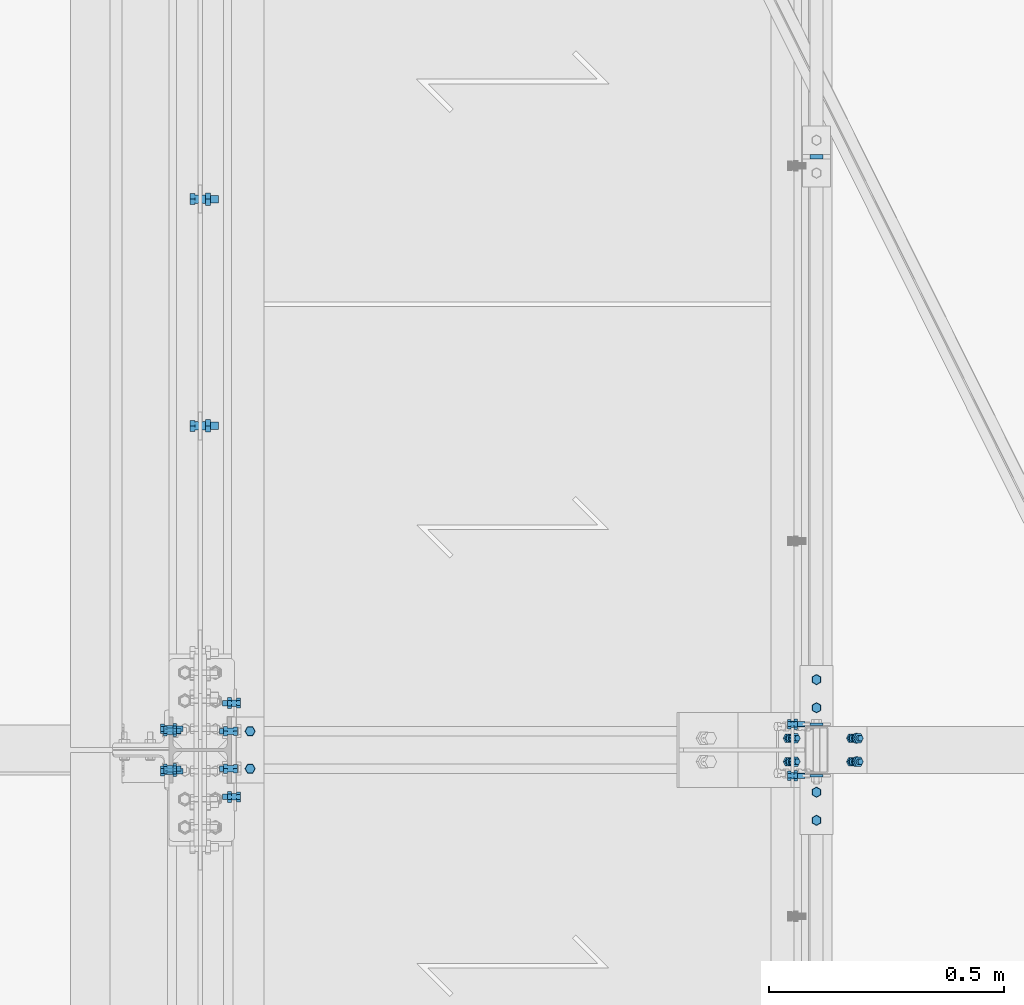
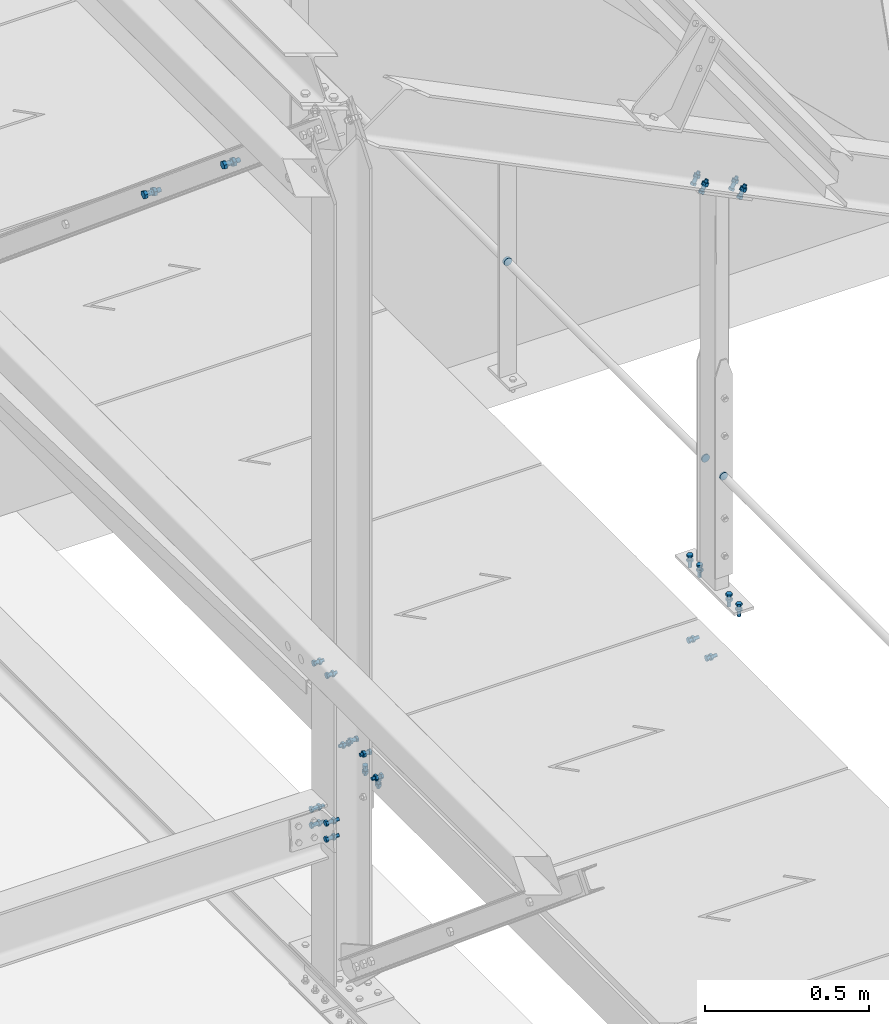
# One storey, part 319 of 362: 23 mechanical fasteners.
"""IFC2X3 building model written with IfcOpenShell, lengths in millimetres."""

from ifc_helpers import new_model, si_unit, frame, origin_with_axes, origin_2d_with_axis, place, context, subcontext, project, spatial, polyline, circle, outline, extrude, source, transform, mapped, material, type_object, element, save


model = new_model("IFC2X3")

# Units and contexts
model_context = context("Model", 3, precision=1e-05, world=origin_with_axes())
body_context = subcontext(model_context, "Body", "Model", "MODEL_VIEW")
ifc_project = project(units=[si_unit("LENGTHUNIT", "METRE", prefix="MILLI"), si_unit("AREAUNIT", "SQUARE_METRE"), si_unit("VOLUMEUNIT", "CUBIC_METRE"), si_unit("MASSUNIT", "GRAM", prefix="KILO"), si_unit("TIMEUNIT", "SECOND"), si_unit("PLANEANGLEUNIT", "RADIAN"), si_unit("SOLIDANGLEUNIT", "STERADIAN"), si_unit("THERMODYNAMICTEMPERATUREUNIT", "DEGREE_CELSIUS"), si_unit("LUMINOUSINTENSITYUNIT", "LUMEN")], contexts=[model_context])

# Site, building, storey
site_placement = place(None, origin_with_axes())
site = spatial("IfcSite", under=ifc_project, at=site_placement, Name="Undefined", CompositionType="ELEMENT")
building_placement = place(site_placement, origin_with_axes())
building = spatial("IfcBuilding", under=site, at=building_placement, Name="Undefined", CompositionType="ELEMENT")
storey_placement = place(building_placement, origin_with_axes())
storey = spatial("IfcBuildingStorey", under=building, at=storey_placement, Name="Undefined", CompositionType="ELEMENT", Elevation=0.0)

# Mechanical fasteners
ifc_material_1 = material(Name="8.8-SB-ZINGUE")
mechanical_fastener_type = type_object("IfcMechanicalFastenerType", Name="Bolt assembly")
shared_shape_1 = source(origin_with_axes(), body_context, "Body", "SweptSolid", [
    extrude(circle(Radius=9.0, at=origin_2d_with_axis()), frame((0.0, -10.9000000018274, 0.0), z_axis=(0.0, 1.0, 0.0), x_axis=(1.0, 0.0, 0.0)), (0.0, 0.0, 1.0), 6.0),
    extrude(circle(Radius=9.0, at=origin_2d_with_axis()), frame((0.0, 4.9000000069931, 0.0), z_axis=(0.0, 1.0, 0.0), x_axis=(1.0, 0.0, 0.0)), (0.0, 0.0, 1.0), 6.1),
    extrude(circle(Radius=9.0, at=origin_2d_with_axis()), frame((0.0, -3.99999923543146, 0.0), z_axis=(0.0, 1.0, 0.0), x_axis=(1.0, 0.0, 0.0)), (0.0, 0.0, 1.0), 8.0),
    extrude(outline(polyline([(13.85640646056, 0.0), (6.92820323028, 12.0000000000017), (-6.92820323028, 12.0000000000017), (-13.85640646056, 0.0), (-6.92820323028, -12.0000000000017), (6.92820323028, -12.0000000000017), (13.85640646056, 0.0)])), frame((0.0, -21.5600000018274, 0.0), z_axis=(0.0, 1.0, 0.0), x_axis=(1.0, 0.0, 0.0)), (0.0, 0.0, 1.0), 10.56),
    extrude(circle(Radius=8.0, at=origin_2d_with_axis()), frame((0.0, -11.0000000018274, 0.0), z_axis=(0.0, 1.0, 0.0), x_axis=(1.0, 0.0, 0.0)), (0.0, 0.0, 1.0), 50.0),
    extrude(outline(polyline([(15.3344231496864, 0.0), (7.6672115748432, 13.2800000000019), (-7.6672115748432, 13.2800000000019), (-15.3344231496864, 0.0), (-7.6672115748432, -13.2800000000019), (7.6672115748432, -13.2800000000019), (15.3344231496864, 0.0)])), frame((0.0, 11.0000000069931, 0.0), z_axis=(0.0, 1.0, 0.0), x_axis=(1.0, 0.0, 0.0)), (0.0, 0.0, 1.0), 10.56),
])
for number, where, z_axis, x_axis, name in (
    (1, (34280.0, 4490.89269244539, 9846.10460257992), (0.0, 1.0, 0.0), (0.0, 0.0, 1.0), "Bolt assembly"),
    (2, (34280.0, 4974.53561570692, 9442.26276165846), (0.0, 1.0, 0.0), (0.0, 0.0, 1.0), "Bolt assembly"),
):
    element("IfcMechanicalFastener", number, at=place(storey_placement, frame(where, z_axis=z_axis, x_axis=x_axis)), inside=storey, type_object=mechanical_fastener_type, material=ifc_material_1, Name=name, NominalDiameter=16.0, NominalLength=50.0, context=body_context, shape_type="MappedRepresentation", body=[
        mapped(shared_shape_1, transform((0.0, 0.0, 0.0))),
    ])
shared_shape_2 = source(origin_with_axes(), body_context, "Body", "SweptSolid", [
    extrude(circle(Radius=7.0, at=origin_2d_with_axis()), frame((0.0, -10.0000010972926, 0.0), z_axis=(0.0, 1.0, 0.0), x_axis=(1.0, 0.0, 0.0)), (0.0, 0.0, 1.0), 10.1),
    extrude(outline(polyline([(10.39230484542, 0.0), (5.19615242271, 9.00000000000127), (-5.19615242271, 9.00000000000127), (-10.39230484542, 0.0), (-5.19615242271, -9.00000000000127), (5.19615242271, -9.00000000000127), (10.39230484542, 0.0)])), frame((0.0, -17.92, 0.0), z_axis=(0.0, 1.0, 0.0), x_axis=(1.0, 0.0, 0.0)), (0.0, 0.0, 1.0), 7.92),
    extrude(circle(Radius=6.0, at=origin_2d_with_axis()), frame((0.0, -10.0000010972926, 0.0), z_axis=(0.0, 1.0, 0.0), x_axis=(1.0, 0.0, 0.0)), (0.0, 0.0, 1.0), 40.0),
    extrude(outline(polyline([(11.5008173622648, 0.0), (5.7504086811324, 9.96000000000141), (-5.7504086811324, 9.96000000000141), (-11.5008173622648, 0.0), (-5.7504086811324, -9.96000000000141), (5.7504086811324, -9.96000000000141), (11.5008173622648, 0.0)])), frame((0.0, 0.0, 0.0), z_axis=(0.0, 1.0, 0.0), x_axis=(1.0, 0.0, 0.0)), (0.0, 0.0, 1.0), 7.92),
])
for number, where, z_axis, x_axis, name in (
    (3, (35593.9917140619, 3950.00010619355, 8239.99999240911), (1.0, 0.0, 0.0), (0.0, -1.0, 0.0), "Bolt assembly"),
    (4, (35593.9917140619, 3650.00010619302, 8240.00002612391), (-1.0, 0.0, 0.0), (0.0, 1.0, 0.0), "Bolt assembly"),
):
    element("IfcMechanicalFastener", number, at=place(storey_placement, frame(where, z_axis=z_axis, x_axis=x_axis)), inside=storey, type_object=mechanical_fastener_type, material=ifc_material_1, Name=name, NominalDiameter=12.0, NominalLength=40.0, context=body_context, shape_type="MappedRepresentation", body=[
        mapped(shared_shape_2, transform((0.0, 0.0, 0.0))),
        mapped(shared_shape_2, transform((60.0, 0.0, 0.0))),
    ])
ifc_material_2 = material(Name="6.8")
shared_shape_3 = source(origin_with_axes(), body_context, "Body", "SweptSolid", [
    extrude(circle(Radius=14.0, at=origin_2d_with_axis()), frame((0.0, -5.00000000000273, 0.0), z_axis=(0.0, 1.0, 0.0), x_axis=(1.0, 0.0, 0.0)), (0.0, 0.0, 1.0), 10.1),
])
mechanical_fastener_placement = place(storey_placement, frame((35593.9917152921, 5065.0034325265, 8673.8000038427), z_axis=(0.0, 0.0, 1.0), x_axis=(-1.0, 0.0, 0.0)))
element("IfcMechanicalFastener", 5, at=mechanical_fastener_placement, inside=storey, type_object=mechanical_fastener_type, material=ifc_material_2, Name="Bolt assembly", NominalDiameter=27.0, NominalLength=10.0, context=body_context, shape_type="MappedRepresentation", body=[
    mapped(shared_shape_3, transform((0.0, 0.0, 0.0))),
])
shared_shape_4 = source(origin_with_axes(), body_context, "Body", "SweptSolid", [
    extrude(circle(Radius=7.0, at=origin_2d_with_axis()), frame((0.0, -4.90000000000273, 0.0), z_axis=(0.0, 1.0, 0.0), x_axis=(1.0, 0.0, 0.0)), (0.0, 0.0, 1.0), 5.0),
    extrude(circle(Radius=7.0, at=origin_2d_with_axis()), frame((0.0, -0.100011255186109, 0.0), z_axis=(0.0, 1.0, 0.0), x_axis=(1.0, 0.0, 0.0)), (0.0, 0.0, 1.0), 7.1),
    extrude(outline(polyline([(10.39230484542, 0.0), (5.19615242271, 9.00000000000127), (-5.19615242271, 9.00000000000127), (-10.39230484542, 0.0), (-5.19615242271, -9.00000000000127), (5.19615242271, -9.00000000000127), (10.39230484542, 0.0)])), frame((0.0, -12.9200004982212, 0.0), z_axis=(0.0, 1.0, 0.0), x_axis=(1.0, 0.0, 0.0)), (0.0, 0.0, 1.0), 7.92),
    extrude(circle(Radius=6.0, at=origin_2d_with_axis()), frame((0.0, -5.00000000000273, 0.0), z_axis=(0.0, 1.0, 0.0), x_axis=(1.0, 0.0, 0.0)), (0.0, 0.0, 1.0), 30.0),
    extrude(outline(polyline([(11.5008173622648, 0.0), (5.7504086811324, 9.96000000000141), (-5.7504086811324, 9.96000000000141), (-11.5008173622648, 0.0), (-5.7504086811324, -9.96000000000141), (5.7504086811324, -9.96000000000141), (11.5008173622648, 0.0)])), frame((0.0, 7.0, 0.0), z_axis=(0.0, 1.0, 0.0), x_axis=(1.0, 0.0, 0.0)), (0.0, 0.0, 1.0), 7.92),
])
for number, where, z_axis, x_axis, name in (
    (6, (34386.5001146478, 3839.99999998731, 7950.00000000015), (0.0, -1.0, 0.0), (-1.0, 0.0, 0.0), "Bolt assembly"),
    (7, (34386.5001146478, 3759.99999998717, 7950.00000000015), (0.0, -1.0, 0.0), (-1.0, 0.0, 0.0), "Bolt assembly"),
):
    element("IfcMechanicalFastener", number, at=place(storey_placement, frame(where, z_axis=z_axis, x_axis=x_axis)), inside=storey, type_object=mechanical_fastener_type, material=ifc_material_1, Name=name, NominalDiameter=12.0, NominalLength=30.0, context=body_context, shape_type="MappedRepresentation", body=[
        mapped(shared_shape_4, transform((0.0, 0.0, 0.0))),
    ])
shared_shape_5 = source(origin_with_axes(), body_context, "Body", "SweptSolid", [
    extrude(circle(Radius=7.0, at=origin_2d_with_axis()), frame((0.0, -0.0998569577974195, 0.0), z_axis=(0.0, 1.0, 0.0), x_axis=(1.0, 0.0, 0.0)), (0.0, 0.0, 1.0), 8.6),
    extrude(circle(Radius=7.0, at=origin_2d_with_axis()), frame((0.0, -4.89988938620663, 0.0), z_axis=(0.0, 1.0, 0.0), x_axis=(1.0, 0.0, 0.0)), (0.0, 0.0, 1.0), 5.0),
    extrude(outline(polyline([(10.39230484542, 0.0), (5.19615242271, 9.00000000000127), (-5.19615242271, 9.00000000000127), (-10.39230484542, 0.0), (-5.19615242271, -9.00000000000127), (5.19615242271, -9.00000000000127), (10.39230484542, 0.0)])), frame((0.0, -12.9198893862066, 0.0), z_axis=(0.0, 1.0, 0.0), x_axis=(1.0, 0.0, 0.0)), (0.0, 0.0, 1.0), 7.92),
    extrude(circle(Radius=6.0, at=origin_2d_with_axis()), frame((0.0, -4.99988938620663, 0.0), z_axis=(0.0, 1.0, 0.0), x_axis=(1.0, 0.0, 0.0)), (0.0, 0.0, 1.0), 30.0),
    extrude(outline(polyline([(11.5008173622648, 0.0), (5.7504086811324, 9.96000000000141), (-5.7504086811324, 9.96000000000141), (-11.5008173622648, 0.0), (-5.7504086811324, -9.96000000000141), (5.7504086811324, -9.96000000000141), (11.5008173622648, 0.0)])), frame((0.0, 8.50011464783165, 0.0), z_axis=(0.0, 1.0, 0.0), x_axis=(1.0, 0.0, 0.0)), (0.0, 0.0, 1.0), 7.92),
])
for number, where, z_axis, x_axis, name in (
    (8, (34346.5001146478, 3760.00000098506, 8070.00000000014), (0.0, 1.0, 0.0), (0.0, 0.0, -1.0), "Bolt assembly"),
    (9, (34346.5001146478, 3840.00000098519, 8070.00000000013), (0.0, 1.0, 0.0), (0.0, 0.0, -1.0), "Bolt assembly"),
):
    element("IfcMechanicalFastener", number, at=place(storey_placement, frame(where, z_axis=z_axis, x_axis=x_axis)), inside=storey, type_object=mechanical_fastener_type, material=ifc_material_1, Name=name, NominalDiameter=12.0, NominalLength=30.0, context=body_context, shape_type="MappedRepresentation", body=[
        mapped(shared_shape_5, transform((0.0, 0.0, 0.0))),
    ])
shared_shape_6 = source(origin_with_axes(), body_context, "Body", "SweptSolid", [
    extrude(circle(Radius=14.0, at=origin_2d_with_axis()), frame((0.0, -2.5, 0.0), z_axis=(0.0, 1.0, 0.0), x_axis=(1.0, 0.0, 0.0)), (0.0, 0.0, 1.0), 5.1),
])
for number, where, z_axis, x_axis, name in (
    (10, (35593.9917143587, 3744.99999422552, 8673.80000478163), (0.0, 0.0, 1.0), (-1.0, 0.0, 0.0), "Bolt assembly"),
    (11, (35593.9917144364, 3854.99999421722, 8673.80000470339), (0.0, 0.0, 1.0), (-1.0, 0.0, 0.0), "Bolt assembly"),
):
    element("IfcMechanicalFastener", number, at=place(storey_placement, frame(where, z_axis=z_axis, x_axis=x_axis)), inside=storey, type_object=mechanical_fastener_type, material=ifc_material_2, Name=name, NominalDiameter=27.0, NominalLength=10.0, context=body_context, shape_type="MappedRepresentation", body=[
        mapped(shared_shape_6, transform((0.0, 0.0, 0.0))),
    ])
shared_shape_7 = source(origin_with_axes(), body_context, "Body", "SweptSolid", [
    extrude(circle(Radius=7.0, at=origin_2d_with_axis()), frame((0.0, -0.100011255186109, 0.0), z_axis=(0.0, 1.0, 0.0), x_axis=(1.0, 0.0, 0.0)), (0.0, 0.0, 1.0), 8.6),
    extrude(circle(Radius=7.0, at=origin_2d_with_axis()), frame((0.0, -9.9, 0.0), z_axis=(0.0, 1.0, 0.0), x_axis=(1.0, 0.0, 0.0)), (0.0, 0.0, 1.0), 10.0),
    extrude(outline(polyline([(10.39230484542, 0.0), (5.19615242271, 9.00000000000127), (-5.19615242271, 9.00000000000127), (-10.39230484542, 0.0), (-5.19615242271, -9.00000000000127), (5.19615242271, -9.00000000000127), (10.39230484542, 0.0)])), frame((0.0, -17.92, 0.0), z_axis=(0.0, 1.0, 0.0), x_axis=(1.0, 0.0, 0.0)), (0.0, 0.0, 1.0), 7.92),
    extrude(circle(Radius=6.0, at=origin_2d_with_axis()), frame((0.0, -10.0000010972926, 0.0), z_axis=(0.0, 1.0, 0.0), x_axis=(1.0, 0.0, 0.0)), (0.0, 0.0, 1.0), 40.0),
    extrude(circle(Radius=10.8, at=origin_2d_with_axis()), frame((0.0, 8.49999994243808, 0.0), z_axis=(0.0, 1.0, 0.0), x_axis=(1.0, 0.0, 0.0)), (0.0, 0.0, 1.0), 3.96),
    extrude(outline(polyline([(11.5008173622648, 0.0), (5.7504086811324, 9.96000000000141), (-5.7504086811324, 9.96000000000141), (-11.5008173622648, 0.0), (-5.7504086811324, -9.96000000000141), (5.7504086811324, -9.96000000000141), (11.5008173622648, 0.0)])), frame((0.0, 12.4599999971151, 0.0), z_axis=(0.0, 1.0, 0.0), x_axis=(1.0, 0.0, 0.0)), (0.0, 0.0, 1.0), 7.92),
])
for number, where, z_axis, x_axis, name in (
    (12, (35674.7575800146, 3799.99999999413, 9681.7944284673), (0.0, 1.0, 0.0), (-0.897398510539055, -1.29999898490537e-08, 0.441220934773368), "Bolt assembly"),
    (13, (35540.1478034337, 3799.99999999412, 9747.97756868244), (0.0, -1.0, 0.0), (0.897398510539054, 0.0, -0.44122093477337), "Bolt assembly"),
):
    element("IfcMechanicalFastener", number, at=place(storey_placement, frame(where, z_axis=z_axis, x_axis=x_axis)), inside=storey, type_object=mechanical_fastener_type, material=ifc_material_1, Name=name, NominalDiameter=12.0, NominalLength=40.0, context=body_context, shape_type="MappedRepresentation", body=[
        mapped(shared_shape_7, transform((0.0, 0.0, -25.0))),
        mapped(shared_shape_7, transform((0.0, 0.0, 25.0))),
    ])
shared_shape_8 = source(origin_with_axes(), body_context, "Body", "SweptSolid", [
    extrude(circle(Radius=7.0, at=origin_2d_with_axis()), frame((0.0, -6.5, 0.0), z_axis=(0.0, 1.0, 0.0), x_axis=(1.0, 0.0, 0.0)), (0.0, 0.0, 1.0), 6.1),
    extrude(outline(polyline([(10.39230484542, 0.0), (5.19615242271, 9.00000000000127), (-5.19615242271, 9.00000000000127), (-10.39230484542, 0.0), (-5.19615242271, -9.00000000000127), (5.19615242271, -9.00000000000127), (10.39230484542, 0.0)])), frame((0.0, -14.42, 0.0), z_axis=(0.0, 1.0, 0.0), x_axis=(1.0, 0.0, 0.0)), (0.0, 0.0, 1.0), 7.92),
    extrude(circle(Radius=6.0, at=origin_2d_with_axis()), frame((0.0, -6.5, 0.0), z_axis=(0.0, 1.0, 0.0), x_axis=(1.0, 0.0, 0.0)), (0.0, 0.0, 1.0), 30.0),
    extrude(outline(polyline([(11.5008173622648, 0.0), (5.7504086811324, 9.96000000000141), (-5.7504086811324, 9.96000000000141), (-11.5008173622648, 0.0), (-5.7504086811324, -9.96000000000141), (5.7504086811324, -9.96000000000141), (11.5008173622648, 0.0)])), frame((0.0, -0.5, 0.0), z_axis=(0.0, 1.0, 0.0), x_axis=(1.0, 0.0, 0.0)), (0.0, 0.0, 1.0), 7.92),
])
for number, where, z_axis, x_axis, name in (
    (14, (35546.4917140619, 3854.99999063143, 8015.00000000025), (0.0, 0.0, 1.0), (0.0, -1.0, 0.0), "Bolt assembly"),
    (15, (35546.4917140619, 3744.99999998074, 8015.00000000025), (0.0, 0.0, -1.0), (0.0, 1.0, 0.0), "Bolt assembly"),
):
    element("IfcMechanicalFastener", number, at=place(storey_placement, frame(where, z_axis=z_axis, x_axis=x_axis)), inside=storey, type_object=mechanical_fastener_type, material=ifc_material_1, Name=name, NominalDiameter=12.0, NominalLength=30.0, context=body_context, shape_type="MappedRepresentation", body=[
        mapped(shared_shape_8, transform((0.0, 0.0, 0.0))),
    ])
shared_shape_9 = source(origin_with_axes(), body_context, "Body", "SweptSolid", [
    extrude(circle(Radius=7.0, at=origin_2d_with_axis()), frame((0.0, -0.108038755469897, 0.0), z_axis=(0.0, 1.0, 0.0), x_axis=(1.0, 0.0, 0.0)), (0.0, 0.0, 1.0), 5.1),
    extrude(circle(Radius=7.0, at=origin_2d_with_axis()), frame((0.0, -6.4, 0.0), z_axis=(0.0, 1.0, 0.0), x_axis=(1.0, 0.0, 0.0)), (0.0, 0.0, 1.0), 6.0),
    extrude(outline(polyline([(10.39230484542, 0.0), (5.19615242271, 9.00000000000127), (-5.19615242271, 9.00000000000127), (-10.39230484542, 0.0), (-5.19615242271, -9.00000000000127), (5.19615242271, -9.00000000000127), (10.39230484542, 0.0)])), frame((0.0, -14.42, 0.0), z_axis=(0.0, 1.0, 0.0), x_axis=(1.0, 0.0, 0.0)), (0.0, 0.0, 1.0), 7.92),
    extrude(circle(Radius=6.0, at=origin_2d_with_axis()), frame((0.0, -6.5, 0.0), z_axis=(0.0, 1.0, 0.0), x_axis=(1.0, 0.0, 0.0)), (0.0, 0.0, 1.0), 30.0),
    extrude(outline(polyline([(11.5008173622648, 0.0), (5.7504086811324, 9.96000000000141), (-5.7504086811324, 9.96000000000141), (-11.5008173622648, 0.0), (-5.7504086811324, -9.96000000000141), (5.7504086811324, -9.96000000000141), (11.5008173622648, 0.0)])), frame((0.0, 4.99194106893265, 0.0), z_axis=(0.0, 1.0, 0.0), x_axis=(1.0, 0.0, 0.0)), (0.0, 0.0, 1.0), 7.92),
])
for number, where, z_axis, x_axis, name in (
    (16, (34351.491943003, 3899.999999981, 8015.00000000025), (0.0, 0.0, -1.0), (0.0, -1.0, 0.0), "Bolt assembly"),
    (17, (34351.491943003, 3699.99999998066, 8015.00000000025), (0.0, 0.0, 1.0), (0.0, 1.0, 0.0), "Bolt assembly"),
):
    element("IfcMechanicalFastener", number, at=place(storey_placement, frame(where, z_axis=z_axis, x_axis=x_axis)), inside=storey, type_object=mechanical_fastener_type, material=ifc_material_1, Name=name, NominalDiameter=12.0, NominalLength=30.0, context=body_context, shape_type="MappedRepresentation", body=[
        mapped(shared_shape_9, transform((0.0, 0.0, 0.0))),
    ])
shared_shape_10 = source(origin_with_axes(), body_context, "Body", "SweptSolid", [
    extrude(circle(Radius=7.0, at=origin_2d_with_axis()), frame((0.0, -0.10007666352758, 0.0), z_axis=(0.0, 1.0, 0.0), x_axis=(1.0, 0.0, 0.0)), (0.0, 0.0, 1.0), 8.6),
    extrude(circle(Radius=7.0, at=origin_2d_with_axis()), frame((0.0, -3.89999843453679, 0.0), z_axis=(0.0, 1.0, 0.0), x_axis=(1.0, 0.0, 0.0)), (0.0, 0.0, 1.0), 4.0),
    extrude(outline(polyline([(10.39230484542, 0.0), (5.19615242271, 9.00000000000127), (-5.19615242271, 9.00000000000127), (-10.39230484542, 0.0), (-5.19615242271, -9.00000000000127), (5.19615242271, -9.00000000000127), (10.39230484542, 0.0)])), frame((0.0, -11.9199984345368, 0.0), z_axis=(0.0, 1.0, 0.0), x_axis=(1.0, 0.0, 0.0)), (0.0, 0.0, 1.0), 7.92),
    extrude(circle(Radius=6.0, at=origin_2d_with_axis()), frame((0.0, -3.99999923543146, 0.0), z_axis=(0.0, 1.0, 0.0), x_axis=(1.0, 0.0, 0.0)), (0.0, 0.0, 1.0), 30.0),
    extrude(outline(polyline([(11.5008173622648, 0.0), (5.7504086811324, 9.96000000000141), (-5.7504086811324, 9.96000000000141), (-11.5008173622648, 0.0), (-5.7504086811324, -9.96000000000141), (5.7504086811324, -9.96000000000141), (11.5008173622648, 0.0)])), frame((0.0, 8.49988372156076, 0.0), z_axis=(0.0, 1.0, 0.0), x_axis=(1.0, 0.0, 0.0)), (0.0, 0.0, 1.0), 7.92),
])
for number, where, z_axis, x_axis, name in (
    (18, (34213.5001162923, 3840.0, 8404.59626929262), (0.0, 0.0, -1.0), (0.0, 1.0, 0.0), "Bolt assembly"),
    (19, (34213.5001162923, 3760.0, 8407.11059506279), (0.0, 0.0, 1.0), (0.0, -1.0, 0.0), "Bolt assembly"),
):
    element("IfcMechanicalFastener", number, at=place(storey_placement, frame(where, z_axis=z_axis, x_axis=x_axis)), inside=storey, type_object=mechanical_fastener_type, material=ifc_material_1, Name=name, NominalDiameter=12.0, NominalLength=30.0, context=body_context, shape_type="MappedRepresentation", body=[
        mapped(shared_shape_10, transform((0.0, 0.0, 0.0))),
    ])
shared_shape_11 = source(origin_with_axes(), body_context, "Body", "SweptSolid", [
    extrude(circle(Radius=7.0, at=origin_2d_with_axis()), frame((0.0, -0.100011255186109, 0.0), z_axis=(0.0, 1.0, 0.0), x_axis=(1.0, 0.0, 0.0)), (0.0, 0.0, 1.0), 8.6),
    extrude(circle(Radius=7.0, at=origin_2d_with_axis()), frame((0.0, -9.9, 0.0), z_axis=(0.0, 1.0, 0.0), x_axis=(1.0, 0.0, 0.0)), (0.0, 0.0, 1.0), 10.0),
    extrude(outline(polyline([(10.39230484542, 0.0), (5.19615242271, 9.00000000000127), (-5.19615242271, 9.00000000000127), (-10.39230484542, 0.0), (-5.19615242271, -9.00000000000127), (5.19615242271, -9.00000000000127), (10.39230484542, 0.0)])), frame((0.0, -17.92, 0.0), z_axis=(0.0, 1.0, 0.0), x_axis=(1.0, 0.0, 0.0)), (0.0, 0.0, 1.0), 7.92),
    extrude(circle(Radius=6.0, at=origin_2d_with_axis()), frame((0.0, -10.0000010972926, 0.0), z_axis=(0.0, 1.0, 0.0), x_axis=(1.0, 0.0, 0.0)), (0.0, 0.0, 1.0), 40.0),
    extrude(outline(polyline([(11.5008173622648, 0.0), (5.7504086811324, 9.96000000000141), (-5.7504086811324, 9.96000000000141), (-11.5008173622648, 0.0), (-5.7504086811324, -9.96000000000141), (5.7504086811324, -9.96000000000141), (11.5008173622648, 0.0)])), frame((0.0, 8.49999994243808, 0.0), z_axis=(0.0, 1.0, 0.0), x_axis=(1.0, 0.0, 0.0)), (0.0, 0.0, 1.0), 7.92),
])
for number, where, z_axis, x_axis, name in (
    (20, (34213.5000013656, 3845.0056304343, 7859.13293149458), (0.0, 0.0, -1.0), (0.0, 1.0, 0.0), "Bolt assembly"),
    (21, (34213.5000013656, 3845.00563043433, 7799.1033096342), (0.0, 0.0, -1.0), (0.0, 1.0, 0.0), "Bolt assembly"),
    (22, (34213.5000013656, 3755.00563043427, 7801.93171494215), (0.0, 0.0, 1.0), (0.0, -1.0, 0.0), "Bolt assembly"),
    (23, (34213.5000013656, 3755.00563043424, 7861.96133680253), (0.0, 0.0, 1.0), (0.0, -1.0, 0.0), "Bolt assembly"),
):
    element("IfcMechanicalFastener", number, at=place(storey_placement, frame(where, z_axis=z_axis, x_axis=x_axis)), inside=storey, type_object=mechanical_fastener_type, material=ifc_material_1, Name=name, NominalDiameter=12.0, NominalLength=40.0, context=body_context, shape_type="MappedRepresentation", body=[
        mapped(shared_shape_11, transform((0.0, 0.0, 0.0))),
    ])

save(model, "model.ifc")
